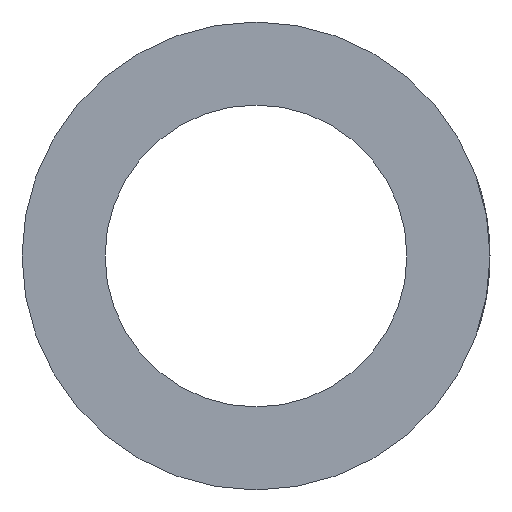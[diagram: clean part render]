
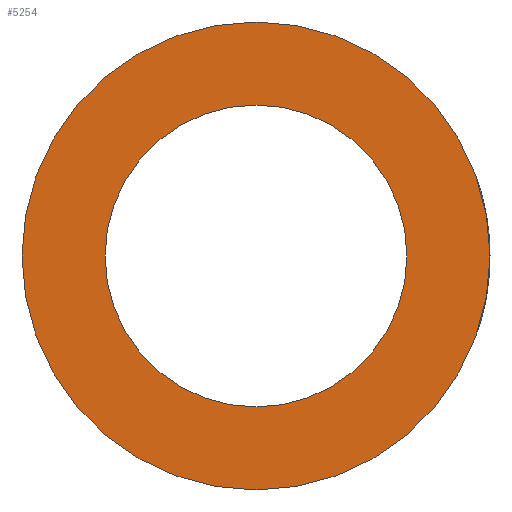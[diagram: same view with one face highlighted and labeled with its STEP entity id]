
A CAD part, left-side view. The second image highlights one B-rep face of the part: STEP entity #5254.
In plain terms, the highlighted planar face has unit normal (-1, 0, 0).
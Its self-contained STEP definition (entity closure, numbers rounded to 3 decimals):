
#112=PLANE('',#5664);
#1612=ORIENTED_EDGE('',*,*,#3196,.T.);
#1613=ORIENTED_EDGE('',*,*,#3195,.F.);
#3195=EDGE_CURVE('',#3987,#3987,#4350,.T.);
#3196=EDGE_CURVE('',#3988,#3988,#4351,.T.);
#3987=VERTEX_POINT('',#8358);
#3988=VERTEX_POINT('',#8361);
#4350=CIRCLE('',#5663,31.);
#4351=CIRCLE('',#5665,20.);
#4477=EDGE_LOOP('',(#1612));
#4478=EDGE_LOOP('',(#1613));
#4859=FACE_BOUND('',#4477,.T.);
#4860=FACE_BOUND('',#4478,.T.);
#5254=ADVANCED_FACE('',(#4859,#4860),#112,.F.);
#5663=AXIS2_PLACEMENT_3D('',#8357,#6223,#6224);
#5664=AXIS2_PLACEMENT_3D('',#8359,#6225,#6226);
#5665=AXIS2_PLACEMENT_3D('',#8360,#6227,#6228);
#6223=DIRECTION('',(1.,0.,0.));
#6224=DIRECTION('',(0.,0.,-1.));
#6225=DIRECTION('',(1.,0.,0.));
#6226=DIRECTION('',(0.,0.,-1.));
#6227=DIRECTION('',(1.,0.,0.));
#6228=DIRECTION('',(0.,0.,-1.));
#8357=CARTESIAN_POINT('',(-40.,0.,0.));
#8358=CARTESIAN_POINT('',(-40.,0.,-31.));
#8359=CARTESIAN_POINT('',(-40.,0.,0.));
#8360=CARTESIAN_POINT('',(-40.,0.,0.));
#8361=CARTESIAN_POINT('',(-40.,0.,-20.));
